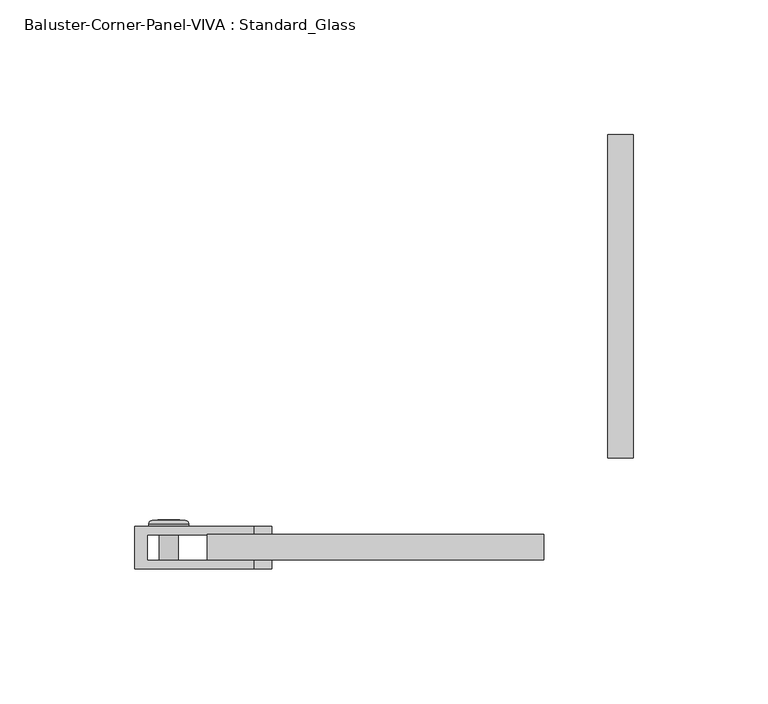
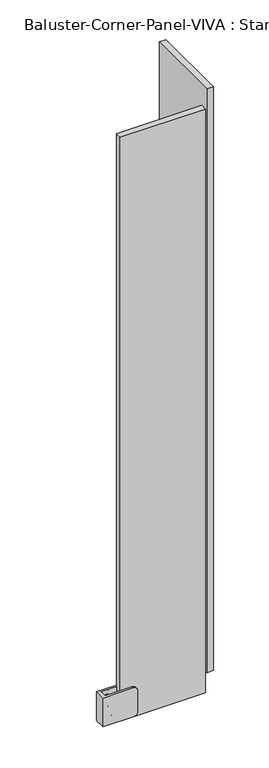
"""IFC4 building model written with IfcOpenShell, lengths in millimetres: railing geometry, Baluster-Corner-Panel-VIVA : Standard_Glass."""

from ifc_helpers import new_model, si_unit, point, frame, origin, place, context, project, spatial, polyline, circle_curve, ellipse_curve, trimmed, outline, extrude, source, transform, mapped, element, save
from ifc_brep_helpers import plane_surface, cylinder_surface, revolved_surface, advanced_brep


def baluster_corner_panel_viva_standard_glass_a9aeb253(model_context):
    return source(origin(), model_context, "Body", "SolidModel", [
        advanced_brep(
        [(-139.2792707, -36.7665, 138.7358896), (-139.2792707, -24.0665, 138.7358896), (-132.1883788, -24.0665, 138.7358896), (-132.1883788, -36.7665, 138.7358896), (-143.1416138, -24.0665, 138.7358896), (-128.3260357, -24.0665, 138.7358896), (-137.3899001, -23.199388, 138.7358896), (-137.3899001, -36.7665, 138.7358896), (-134.0777494, -36.7665, 138.7358896), (-134.0777494, -23.199388, 138.7358896), (-143.1416138, -23.2316551, 138.7358896), (-141.8603418, -21.9503831, 138.7358896), (-129.6073077, -21.9503831, 138.7358896), (-128.3260357, -23.2316551, 138.7358896), (-140.0324203, -21.9503831, 138.7358896), (-131.4352292, -21.9503831, 138.7358896), (-140.0324203, -23.199388, 138.7358896), (-131.4352292, -23.199388, 138.7358896)],
        [
            (0, 1),
            (1, 2, circle_curve(frame((-135.7338248, -24.0665, 138.7358896), z_axis=(0.0, -1.0, 0.0), x_axis=(1.0, 0.0, 0.0)), 3.5454459)),
            (2, 3),
            (3, 0, circle_curve(frame((-135.7338248, -36.7665, 138.7358896), z_axis=(0.0, 1.0, 0.0), x_axis=(1.0, 0.0, 0.0)), 3.5454459)),
            (2, 1, circle_curve(frame((-135.7338248, -24.0665, 138.7358896), z_axis=(0.0, -1.0, 0.0), x_axis=(1.0, 0.0, 0.0)), 3.5454459)),
            (0, 3, circle_curve(frame((-135.7338248, -36.7665, 138.7358896), z_axis=(0.0, 1.0, 0.0), x_axis=(1.0, 0.0, 0.0)), 3.5454459)),
            (1, 4),
            (4, 5, circle_curve(frame((-135.7338248, -24.0665, 138.7358896), z_axis=(0.0, -1.0, 0.0), x_axis=(1.0, 0.0, 0.0)), 7.4077891)),
            (5, 2),
            (5, 4, circle_curve(frame((-135.7338248, -24.0665, 138.7358896), z_axis=(0.0, -1.0, 0.0), x_axis=(1.0, 0.0, 0.0)), 7.4077891)),
            (6, 7),
            (7, 8, circle_curve(frame((-135.7338248, -36.7665, 138.7358896), z_axis=(0.0, -1.0, 0.0), x_axis=(1.0, 0.0, 0.0)), 1.6560754)),
            (8, 9),
            (9, 6, circle_curve(frame((-135.7338248, -23.199388, 138.7358896), z_axis=(0.0, 1.0, 0.0), x_axis=(1.0, 0.0, 0.0)), 1.6560754)),
            (8, 7, circle_curve(frame((-135.7338248, -36.7665, 138.7358896), z_axis=(0.0, -1.0, 0.0), x_axis=(1.0, 0.0, 0.0)), 1.6560754)),
            (6, 9, circle_curve(frame((-135.7338248, -23.199388, 138.7358896), z_axis=(0.0, 1.0, 0.0), x_axis=(1.0, 0.0, 0.0)), 1.6560754)),
            (10, 11, circle_curve(frame((-141.8603418, -23.2316551, 138.7358896), z_axis=(0.0, 0.0, -1.0), x_axis=(-1.0, 0.0, 0.0)), 1.281272)),
            (11, 12, circle_curve(frame((-135.7338248, -21.9503831, 138.7358896), z_axis=(0.0, -1.0, 0.0), x_axis=(1.0, 0.0, 0.0)), 6.1265171)),
            (12, 13, circle_curve(frame((-129.6073077, -23.2316551, 138.7358896), z_axis=(0.0, 0.0, -1.0), x_axis=(1.0, 0.0, 0.0)), 1.281272)),
            (13, 10, circle_curve(frame((-135.7338248, -23.2316551, 138.7358896), z_axis=(0.0, 1.0, 0.0), x_axis=(1.0, 0.0, 0.0)), 7.4077891)),
            (12, 11, circle_curve(frame((-135.7338248, -21.9503831, 138.7358896), z_axis=(0.0, -1.0, 0.0), x_axis=(1.0, 0.0, 0.0)), 6.1265171)),
            (10, 13, circle_curve(frame((-135.7338248, -23.2316551, 138.7358896), z_axis=(0.0, 1.0, 0.0), x_axis=(1.0, 0.0, 0.0)), 7.4077891)),
            (11, 14),
            (14, 15, circle_curve(frame((-135.7338248, -21.9503831, 138.7358896), z_axis=(0.0, -1.0, 0.0), x_axis=(1.0, 0.0, 0.0)), 4.2985955)),
            (15, 12),
            (15, 14, circle_curve(frame((-135.7338248, -21.9503831, 138.7358896), z_axis=(0.0, -1.0, 0.0), x_axis=(1.0, 0.0, 0.0)), 4.2985955)),
            (4, 10),
            (13, 5),
            (7, 0),
            (3, 8),
            (14, 16),
            (16, 17, circle_curve(frame((-135.7338248, -23.199388, 138.7358896), z_axis=(0.0, -1.0, 0.0), x_axis=(1.0, 0.0, 0.0)), 4.2985955)),
            (17, 15),
            (17, 16, circle_curve(frame((-135.7338248, -23.199388, 138.7358896), z_axis=(0.0, -1.0, 0.0), x_axis=(1.0, 0.0, 0.0)), 4.2985955)),
            (16, 6),
            (9, 17),
        ],
        [
            cylinder_surface(frame((-135.7338248, -27.5632331, 138.7358896), z_axis=(0.0, -1.0, 0.0), x_axis=(1.0, 0.0, 0.0)), 3.5454459),
            plane_surface(frame((-135.7338248, -24.0665, 138.7358896), z_axis=(0.0, -1.0, 0.0), x_axis=(1.0, 0.0, 0.0))),
            revolved_surface(polyline([(-134.07774940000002, -36.7665, 138.7358896), (-134.07774940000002, -23.199388, 138.7358896)]), (-135.7338248, -27.5632331, 138.7358896), (0.0, -1.0, 0.0)),
            revolved_surface(trimmed(ellipse_curve(frame((-129.6073077, -23.2316551, 138.7358896), z_axis=(0.0, 0.0, -1.0), x_axis=(1.0, 0.0, 0.0)), 1.281272, 1.281272), [point((-129.6073077, -21.9503831, 138.7358896))], [point((-128.3260357, -23.2316551, 138.7358896))], True, "CARTESIAN"), (-135.7338248, -27.5632331, 138.7358896), (0.0, -1.0, 0.0)),
            plane_surface(frame((-135.7338248, -21.9503831, 138.7358896), z_axis=(0.0, 1.0, 0.0), x_axis=(1.0, 0.0, 0.0))),
            cylinder_surface(frame((-135.7338248, -27.5632331, 138.7358896), z_axis=(0.0, -1.0, 0.0), x_axis=(1.0, 0.0, 0.0)), 7.4077891),
            plane_surface(frame((-135.7338248, -36.7665, 138.7358896), z_axis=(0.0, -1.0, 0.0), x_axis=(1.0, 0.0, 0.0))),
            revolved_surface(polyline([(-131.4352293, -23.199388, 138.7358896), (-131.4352293, -21.9503831, 138.7358896)]), (-135.7338248, -27.5632331, 138.7358896), (0.0, -1.0, 0.0)),
            plane_surface(frame((-135.7338248, -23.199388, 138.7358896), z_axis=(0.0, 1.0, 0.0), x_axis=(1.0, 0.0, 0.0))),
        ],
        [
            (0, [[1, 2, 3, 4]]),
            (0, [[-3, 5, -1, 6]]),
            (1, [[7, 8, 9, -2]]),
            (1, [[-9, 10, -7, -5]]),
            (2, [[11, 12, 13, 14]]),
            (2, [[-13, 15, -11, 16]]),
            (3, [[17, 18, 19, 20]]),
            (3, [[-19, 21, -17, 22]]),
            (4, [[23, 24, 25, -18]]),
            (4, [[-25, 26, -23, -21]]),
            (5, [[27, -20, 28, -8]]),
            (5, [[-28, -22, -27, -10]]),
            (6, [[29, -4, 30, -12]]),
            (6, [[-30, -6, -29, -15]]),
            (7, [[31, 32, 33, -24]]),
            (7, [[-33, 34, -31, -26]]),
            (8, [[35, -14, 36, -32]]),
            (8, [[-36, -16, -35, -34]]),
        ],
    ),
        advanced_brep(
        [(-139.2792707, -36.7665, 114.1296396), (-139.2792707, -24.0665, 114.1296396), (-132.1883788, -24.0665, 114.1296396), (-132.1883788, -36.7665, 114.1296396), (-143.1416138, -24.0665, 114.1296396), (-128.3260357, -24.0665, 114.1296396), (-137.3899001, -23.199388, 114.1296396), (-137.3899001, -36.7665, 114.1296396), (-134.0777494, -36.7665, 114.1296396), (-134.0777494, -23.199388, 114.1296396), (-143.1416138, -23.2316551, 114.1296396), (-141.8603418, -21.9503831, 114.1296396), (-129.6073077, -21.9503831, 114.1296396), (-128.3260357, -23.2316551, 114.1296396), (-140.0324203, -21.9503831, 114.1296396), (-131.4352292, -21.9503831, 114.1296396), (-140.0324203, -23.199388, 114.1296396), (-131.4352292, -23.199388, 114.1296396)],
        [
            (0, 1),
            (1, 2, circle_curve(frame((-135.7338248, -24.0665, 114.1296396), z_axis=(0.0, -1.0, 0.0), x_axis=(1.0, 0.0, 0.0)), 3.5454459)),
            (2, 3),
            (3, 0, circle_curve(frame((-135.7338248, -36.7665, 114.1296396), z_axis=(0.0, 1.0, 0.0), x_axis=(1.0, 0.0, 0.0)), 3.5454459)),
            (2, 1, circle_curve(frame((-135.7338248, -24.0665, 114.1296396), z_axis=(0.0, -1.0, 0.0), x_axis=(1.0, 0.0, 0.0)), 3.5454459)),
            (0, 3, circle_curve(frame((-135.7338248, -36.7665, 114.1296396), z_axis=(0.0, 1.0, 0.0), x_axis=(1.0, 0.0, 0.0)), 3.5454459)),
            (1, 4),
            (4, 5, circle_curve(frame((-135.7338248, -24.0665, 114.1296396), z_axis=(0.0, -1.0, 0.0), x_axis=(1.0, 0.0, 0.0)), 7.4077891)),
            (5, 2),
            (5, 4, circle_curve(frame((-135.7338248, -24.0665, 114.1296396), z_axis=(0.0, -1.0, 0.0), x_axis=(1.0, 0.0, 0.0)), 7.4077891)),
            (6, 7),
            (7, 8, circle_curve(frame((-135.7338248, -36.7665, 114.1296396), z_axis=(0.0, -1.0, 0.0), x_axis=(1.0, 0.0, 0.0)), 1.6560754)),
            (8, 9),
            (9, 6, circle_curve(frame((-135.7338248, -23.199388, 114.1296396), z_axis=(0.0, 1.0, 0.0), x_axis=(1.0, 0.0, 0.0)), 1.6560754)),
            (8, 7, circle_curve(frame((-135.7338248, -36.7665, 114.1296396), z_axis=(0.0, -1.0, 0.0), x_axis=(1.0, 0.0, 0.0)), 1.6560754)),
            (6, 9, circle_curve(frame((-135.7338248, -23.199388, 114.1296396), z_axis=(0.0, 1.0, 0.0), x_axis=(1.0, 0.0, 0.0)), 1.6560754)),
            (10, 11, circle_curve(frame((-141.8603418, -23.2316551, 114.1296396), z_axis=(0.0, 0.0, -1.0), x_axis=(-1.0, 0.0, 0.0)), 1.281272)),
            (11, 12, circle_curve(frame((-135.7338248, -21.9503831, 114.1296396), z_axis=(0.0, -1.0, 0.0), x_axis=(1.0, 0.0, 0.0)), 6.1265171)),
            (12, 13, circle_curve(frame((-129.6073077, -23.2316551, 114.1296396), z_axis=(0.0, 0.0, -1.0), x_axis=(1.0, 0.0, 0.0)), 1.281272)),
            (13, 10, circle_curve(frame((-135.7338248, -23.2316551, 114.1296396), z_axis=(0.0, 1.0, 0.0), x_axis=(1.0, 0.0, 0.0)), 7.4077891)),
            (12, 11, circle_curve(frame((-135.7338248, -21.9503831, 114.1296396), z_axis=(0.0, -1.0, 0.0), x_axis=(1.0, 0.0, 0.0)), 6.1265171)),
            (10, 13, circle_curve(frame((-135.7338248, -23.2316551, 114.1296396), z_axis=(0.0, 1.0, 0.0), x_axis=(1.0, 0.0, 0.0)), 7.4077891)),
            (11, 14),
            (14, 15, circle_curve(frame((-135.7338248, -21.9503831, 114.1296396), z_axis=(0.0, -1.0, 0.0), x_axis=(1.0, 0.0, 0.0)), 4.2985955)),
            (15, 12),
            (15, 14, circle_curve(frame((-135.7338248, -21.9503831, 114.1296396), z_axis=(0.0, -1.0, 0.0), x_axis=(1.0, 0.0, 0.0)), 4.2985955)),
            (7, 0),
            (3, 8),
            (4, 10),
            (13, 5),
            (14, 16),
            (16, 17, circle_curve(frame((-135.7338248, -23.199388, 114.1296396), z_axis=(0.0, -1.0, 0.0), x_axis=(1.0, 0.0, 0.0)), 4.2985955)),
            (17, 15),
            (17, 16, circle_curve(frame((-135.7338248, -23.199388, 114.1296396), z_axis=(0.0, -1.0, 0.0), x_axis=(1.0, 0.0, 0.0)), 4.2985955)),
            (16, 6),
            (9, 17),
        ],
        [
            cylinder_surface(frame((-135.7338248, -27.5632331, 114.1296396), z_axis=(0.0, -1.0, 0.0), x_axis=(1.0, 0.0, 0.0)), 3.5454459),
            plane_surface(frame((-135.7338248, -24.0665, 114.1296396), z_axis=(0.0, -1.0, 0.0), x_axis=(1.0, 0.0, 0.0))),
            revolved_surface(polyline([(-134.07774940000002, -36.7665, 114.1296396), (-134.07774940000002, -23.199388, 114.1296396)]), (-135.7338248, -27.5632331, 114.1296396), (0.0, -1.0, 0.0)),
            revolved_surface(trimmed(ellipse_curve(frame((-129.6073077, -23.2316551, 114.1296396), z_axis=(0.0, 0.0, -1.0), x_axis=(1.0, 0.0, 0.0)), 1.281272, 1.281272), [point((-129.6073077, -21.9503831, 114.1296396))], [point((-128.3260357, -23.2316551, 114.1296396))], True, "CARTESIAN"), (-135.7338248, -27.5632331, 114.1296396), (0.0, -1.0, 0.0)),
            plane_surface(frame((-135.7338248, -21.9503831, 114.1296396), z_axis=(0.0, 1.0, 0.0), x_axis=(1.0, 0.0, 0.0))),
            plane_surface(frame((-135.7338248, -36.7665, 114.1296396), z_axis=(0.0, -1.0, 0.0), x_axis=(1.0, 0.0, 0.0))),
            cylinder_surface(frame((-135.7338248, -27.5632331, 114.1296396), z_axis=(0.0, -1.0, 0.0), x_axis=(1.0, 0.0, 0.0)), 7.4077891),
            revolved_surface(polyline([(-131.4352293, -23.199388, 114.1296396), (-131.4352293, -21.9503831, 114.1296396)]), (-135.7338248, -27.5632331, 114.1296396), (0.0, -1.0, 0.0)),
            plane_surface(frame((-135.7338248, -23.199388, 114.1296396), z_axis=(0.0, 1.0, 0.0), x_axis=(1.0, 0.0, 0.0))),
        ],
        [
            (0, [[1, 2, 3, 4]]),
            (0, [[-3, 5, -1, 6]]),
            (1, [[7, 8, 9, -2]]),
            (1, [[-9, 10, -7, -5]]),
            (2, [[11, 12, 13, 14]]),
            (2, [[-13, 15, -11, 16]]),
            (3, [[17, 18, 19, 20]]),
            (3, [[-19, 21, -17, 22]]),
            (4, [[23, 24, 25, -18]]),
            (4, [[-25, 26, -23, -21]]),
            (5, [[27, -4, 28, -12]]),
            (5, [[-28, -6, -27, -15]]),
            (6, [[29, -20, 30, -8]]),
            (6, [[-30, -22, -29, -10]]),
            (7, [[31, 32, 33, -24]]),
            (7, [[-33, 34, -31, -26]]),
            (8, [[35, -14, 36, -32]]),
            (8, [[-36, -16, -35, -34]]),
        ],
    ),
        extrude(outline(polyline([(114.1296396, -139.8277531), (110.5841937, -137.7807889), (110.5841937, -133.6868606), (114.1296396, -131.6398965), (117.6750855, -133.6868606), (117.6750855, -137.7807889), (114.1296396, -139.8277531)])), frame((0.0, -23.199388, 0.0), z_axis=(0.0, 1.0, 0.0), x_axis=(0.0, 0.0, 1.0)), (0.0, 0.0, 1.0), 1.4969696),
        advanced_brep(
        [(-148.3671695, -24.0665, 148.6577646), (-103.9171695, -24.0665, 148.6577646), (-97.5671695, -24.0665, 142.3077646), (-97.5671695, -24.0665, 110.5577646), (-103.9171695, -24.0665, 104.2077646), (-148.3671695, -24.0665, 104.2077646), (-148.3671695, -39.9415, 148.6577646), (-148.3671695, -39.9415, 104.2077646), (-103.9171695, -39.9415, 104.2077646), (-97.5671695, -39.9415, 110.5577646), (-97.5671695, -39.9415, 142.3077646), (-103.9171695, -39.9415, 148.6577646), (-103.9171695, -27.2415, 104.2077646), (-143.6490891, -27.2415, 104.2077646), (-143.6490891, -36.7665, 104.2077646), (-103.9171695, -36.7665, 104.2077646), (-143.6490891, -27.2415, 148.6577646), (-143.6490891, -36.7665, 148.6577646), (-97.5671695, -27.2415, 110.5577646), (-97.5671695, -27.2415, 142.3077646), (-103.9171695, -27.2415, 148.6577646), (-103.9171695, -36.7665, 148.6577646), (-97.5671695, -36.7665, 142.3077646), (-97.5671695, -36.7665, 110.5577646)],
        [
            (0, 1),
            (1, 2, circle_curve(frame((-103.9171695, -24.0665, 142.3077646), z_axis=(0.0, 1.0, 0.0), x_axis=(1.0, 0.0, 0.0)), 6.35)),
            (2, 3),
            (3, 4, circle_curve(frame((-103.9171695, -24.0665, 110.5577646), z_axis=(0.0, 1.0, 0.0), x_axis=(1.0, 0.0, 0.0)), 6.35)),
            (4, 5),
            (5, 0),
            (6, 7),
            (7, 8),
            (8, 9, circle_curve(frame((-103.9171695, -39.9415, 110.5577646), z_axis=(0.0, -1.0, 0.0), x_axis=(1.0, 0.0, 0.0)), 6.35)),
            (9, 10),
            (10, 11, circle_curve(frame((-103.9171695, -39.9415, 142.3077646), z_axis=(0.0, -1.0, 0.0), x_axis=(1.0, 0.0, 0.0)), 6.35)),
            (11, 6),
            (5, 7),
            (6, 0),
            (4, 12),
            (12, 13),
            (13, 14),
            (14, 15),
            (15, 8),
            (13, 16),
            (16, 17),
            (17, 14),
            (12, 18, circle_curve(frame((-103.9171695, -27.2415, 110.5577646), z_axis=(0.0, -1.0, 0.0), x_axis=(1.0, 0.0, 0.0)), 6.35)),
            (18, 19),
            (19, 20, circle_curve(frame((-103.9171695, -27.2415, 142.3077646), z_axis=(0.0, -1.0, 0.0), x_axis=(1.0, 0.0, 0.0)), 6.35)),
            (20, 16),
            (17, 21),
            (21, 22, circle_curve(frame((-103.9171695, -36.7665, 142.3077646), z_axis=(0.0, 1.0, 0.0), x_axis=(1.0, 0.0, 0.0)), 6.35)),
            (22, 23),
            (23, 15, circle_curve(frame((-103.9171695, -36.7665, 110.5577646), z_axis=(0.0, 1.0, 0.0), x_axis=(1.0, 0.0, 0.0)), 6.35)),
            (23, 9),
            (3, 18),
            (22, 10),
            (2, 19),
            (21, 11),
            (1, 20),
        ],
        [
            plane_surface(frame((-148.3671695, -24.0665, 104.2077646), z_axis=(0.0, 1.0, 0.0), x_axis=(0.0, 0.0, -1.0))),
            plane_surface(frame((-148.3671695, -39.9415, 104.2077646), z_axis=(0.0, -1.0, 0.0), x_axis=(0.0, 0.0, 1.0))),
            plane_surface(frame((-148.3671695, -24.0665, 148.6577646), z_axis=(-1.0, 0.0, 0.0), x_axis=(0.0, -1.0, 0.0))),
            plane_surface(frame((-148.3671695, -24.0665, 104.2077646), z_axis=(0.0, 0.0, -1.0), x_axis=(0.0, -1.0, 0.0))),
            plane_surface(frame((-143.6490891, -36.7665, 161.3577646), z_axis=(1.0, 0.0, 0.0), x_axis=(0.0, 0.0, -1.0))),
            plane_surface(frame((-143.6490891, -27.2415, 161.3577646), z_axis=(0.0, -1.0, 0.0), x_axis=(0.0, 0.0, -1.0))),
            plane_surface(frame((-84.8671695, -36.7665, 161.3577646), z_axis=(0.0, 1.0, 0.0), x_axis=(0.0, 0.0, -1.0))),
            cylinder_surface(frame((-103.9171695, -39.9415, 110.5577646), z_axis=(0.0, 1.0, 0.0), x_axis=(1.0, 0.0, 0.0)), 6.35),
            plane_surface(frame((-97.5671695, -24.0665, 110.5577646), z_axis=(1.0, 0.0, 0.0), x_axis=(0.0, -1.0, 0.0))),
            cylinder_surface(frame((-103.9171695, -39.9415, 142.3077646), z_axis=(0.0, 1.0, 0.0), x_axis=(1.0, 0.0, 0.0)), 6.35),
            plane_surface(frame((-103.9171695, -24.0665, 148.6577646), z_axis=(0.0, 0.0, 1.0), x_axis=(0.0, -1.0, 0.0))),
        ],
        [
            (0, [[1, 2, 3, 4, 5, 6]]),
            (1, [[7, 8, 9, 10, 11, 12]]),
            (2, [[13, -7, 14, -6]]),
            (3, [[15, 16, 17, 18, 19, -8, -13, -5]]),
            (4, [[-17, 20, 21, 22]]),
            (5, [[-16, 23, 24, 25, 26, -20]]),
            (6, [[27, 28, 29, 30, -18, -22]]),
            (7, [[-19, -30, 31, -9]]),
            (7, [[32, -23, -15, -4]]),
            (8, [[-31, -29, 33, -10]]),
            (8, [[34, -24, -32, -3]]),
            (9, [[-33, -28, 35, -11]]),
            (9, [[36, -25, -34, -2]]),
            (10, [[-14, -12, -35, -27, -21, -26, -36, -1]]),
        ],
    ),
        extrude(outline(polyline([(36.7665, 1.0851207), (27.2415, 1.0851207), (27.2415, 121.3065161), (36.7665, 121.3065161), (36.7665, 1.0851207)])), frame((0.0, 0.0, 101.6), z_axis=(0.0, 0.0, 1.0), x_axis=(1.0, 0.0, 0.0)), (0.0, 0.0, 1.0), 901.7),
        extrude(outline(polyline([(-121.4240891, -36.7665), (-121.4240891, -27.2415), (3.429, -27.2415), (3.429, -36.7665), (-121.4240891, -36.7665)])), frame((0.0, 0.0, 101.6), z_axis=(0.0, 0.0, 1.0), x_axis=(1.0, 0.0, 0.0)), (0.0, 0.0, 1.0), 901.7),
    ])


if __name__ == "__main__":
    model = new_model("IFC4")
    model_context = context("Model", 3, world=origin())
    ifc_project = project(units=[si_unit("LENGTHUNIT", "METRE", prefix="MILLI")], contexts=[model_context])
    site = spatial("IfcSite", under=ifc_project)
    building = spatial("IfcBuilding", under=site)
    placement = place(None, origin())
    baluster_corner_panel_viva_standard_glass_shape = baluster_corner_panel_viva_standard_glass_a9aeb253(model_context)
    element("IfcRailing", 1, ObjectType="Baluster-Corner-Panel-VIVA : Standard_Glass", at=placement, inside=building, context=model_context, shape_type="MappedRepresentation", body=[
        mapped(baluster_corner_panel_viva_standard_glass_shape, transform((0.0, 0.0, 0.0), x_axis=(1.0, 0.0, 0.0), y_axis=(0.0, 1.0, 0.0), z_axis=(0.0, 0.0, 1.0))),
    ])
    save(model, "model.ifc")
